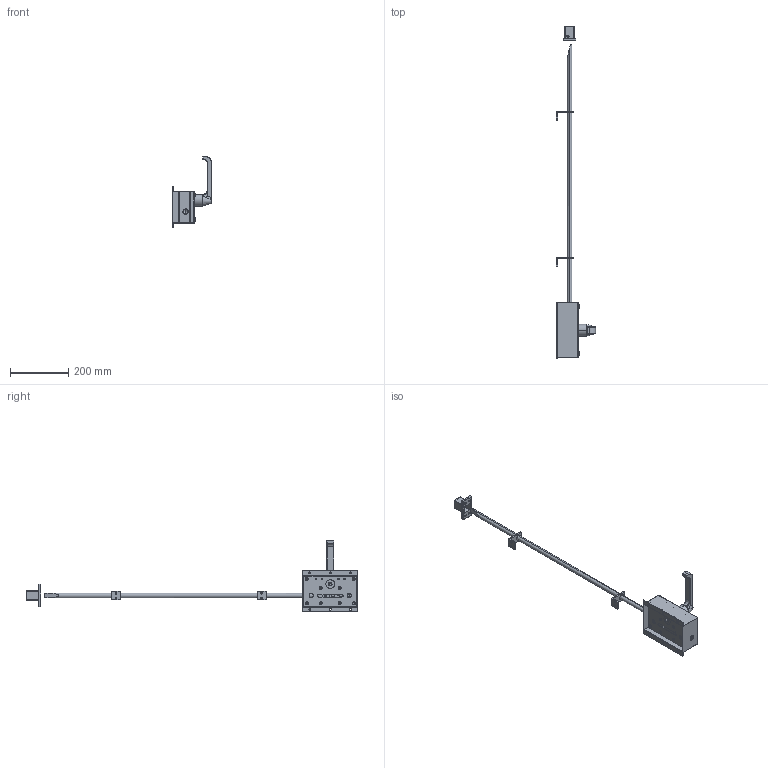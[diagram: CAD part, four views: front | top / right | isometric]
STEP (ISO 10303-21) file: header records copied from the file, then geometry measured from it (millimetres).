
FILE_DESCRIPTION (( 'STEP AP203' ), '1' );
FILE_NAME ('DL-2000.STEP', '2014-03-04T07:44:36', ( 'SDS' ), ( 'SDS' ), 'SwSTEP 2.0', 'SolidWorks 2002296', '' );
FILE_SCHEMA (( 'CONFIG_CONTROL_DESIGN' ));
Length unit declared in the file: millimetre
Products named in the file (36): DL-2000; DL-20001_蹬怮椔; DL-20002_蹬怮椔; DL-20003_蹬怮椔; DL-20004_蹬怮椔; DL-20005_蹬怮椔; DL-20006_蹬怮椔; DL-20007_蹬怮椔; DL-20008_蹬怮椔; DL-20009_蹬怮椔; DL-200010_蹬怮椔; DL-200011_蹬怮椔; DL-200012_蹬怮椔; DL-200013_蹬怮椔; DL-200014_蹬怮椔; DL-200015_蹬怮椔; DL-200016_蹬怮椔; DL-200017_蹬怮椔; DL-200018_蹬怮椔; DL-200019_蹬怮椔; DL-200020_蹬怮椔; DL-200021_蹬怮椔; DL-200031_蹬怮椔; DL-200032_蹬怮椔; DL-200033_蹬怮椔; DL-200034_蹬怮椔; DL-200035_蹬怮椔; DL-200022_蹬怮椔; DL-200023_蹬怮椔; DL-200024_蹬怮椔; DL-200025_蹬怮椔; DL-200026_蹬怮椔; DL-200027_蹬怮椔; DL-200028_蹬怮椔; DL-200029_蹬怮椔; DL-200030_蹬怮椔
Assembly tree (35 placements, depth 2):
  DL-2000
    DL-20006_蹬怮椔
    DL-20009_蹬怮椔
    DL-200015_蹬怮椔
    DL-200034_蹬怮椔
    DL-200022_蹬怮椔
    DL-200023_蹬怮椔
    DL-200035_蹬怮椔
    DL-200032_蹬怮椔
    DL-20004_蹬怮椔
    DL-200029_蹬怮椔
    DL-200030_蹬怮椔
    DL-20007_蹬怮椔
    DL-200017_蹬怮椔
    DL-200027_蹬怮椔
    DL-200013_蹬怮椔
    DL-200031_蹬怮椔
    DL-200024_蹬怮椔
    DL-20005_蹬怮椔
    DL-200012_蹬怮椔
    DL-200014_蹬怮椔
    DL-20003_蹬怮椔
    DL-20008_蹬怮椔
    DL-200026_蹬怮椔
    DL-200016_蹬怮椔
    DL-20002_蹬怮椔
    DL-200011_蹬怮椔
    DL-200020_蹬怮椔
    DL-20001_蹬怮椔
    DL-200021_蹬怮椔
    DL-200025_蹬怮椔
    DL-200010_蹬怮椔
    DL-200019_蹬怮椔
    DL-200018_蹬怮椔
    DL-200033_蹬怮椔
    DL-200028_蹬怮椔
Bounding box: 134 x 1138 x 244 mm (x, y, z)
Volume: 861263.9 mm3; surface area: 393980.7 mm2
Topology: 35 solids, 35 shells, 953 faces, 2366 edges, 1504 vertices
Faces by surface type: cylinder 402, plane 388, cone 113, bspline 50
Entity records: 35735 total; most frequent: CARTESIAN_POINT 8725, DIRECTION 4971, ORIENTED_EDGE 4692, EDGE_CURVE 2346, AXIS2_PLACEMENT_3D 1847, VERTEX_POINT 1504, LINE 1277, VECTOR 1277
